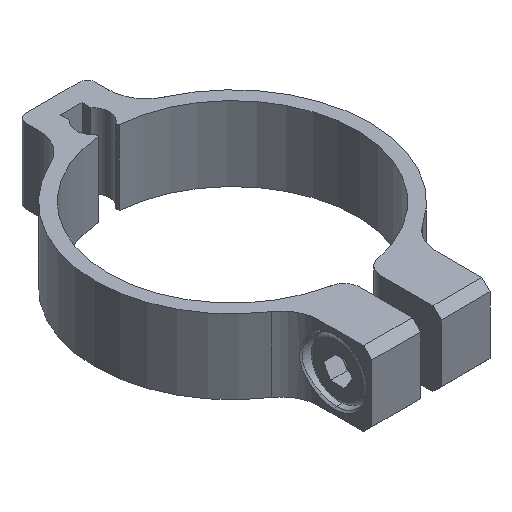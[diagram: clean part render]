
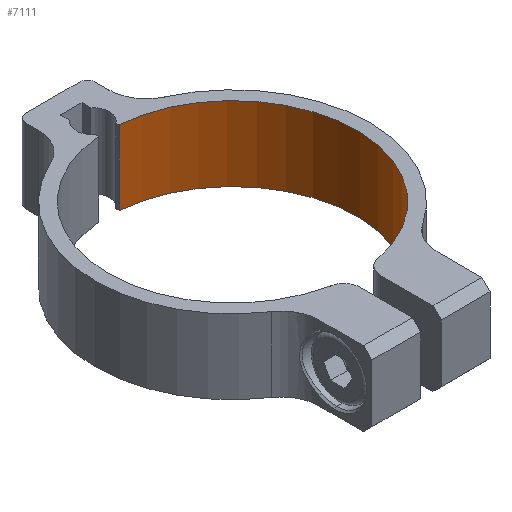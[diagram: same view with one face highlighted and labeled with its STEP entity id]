
A CAD part, isometric view. The second image highlights one B-rep face of the part: STEP entity #7111.
In plain terms, the highlighted cylindrical face has radius 15 mm (diameter 30 mm), a partial arc.
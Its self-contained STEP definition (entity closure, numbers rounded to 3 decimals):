
#703 = EDGE_CURVE ( 'NONE', #4776, #3224, #1637, .T. ) ;
#753 = CARTESIAN_POINT ( 'NONE',  ( 29.228, -89.207, -184.825 ) ) ;
#782 = DIRECTION ( 'NONE',  ( 0., 0., 1. ) ) ;
#1047 = EDGE_CURVE ( 'NONE', #2341, #3224, #5752, .T. ) ;
#1268 = VECTOR ( 'NONE', #782, 1000. ) ;
#1464 = CARTESIAN_POINT ( 'NONE',  ( 30.868, -118.88, -184.825 ) ) ;
#1490 = ORIENTED_EDGE ( 'NONE', *, *, #2277, .T. ) ;
#1552 = CARTESIAN_POINT ( 'NONE',  ( 29.228, -89.207, -175.825 ) ) ;
#1637 = CIRCLE ( 'NONE', #3791, 15. ) ;
#2214 = CARTESIAN_POINT ( 'NONE',  ( 28., -104.157, -175.825 ) ) ;
#2277 = EDGE_CURVE ( 'NONE', #6324, #2341, #6900, .T. ) ;
#2341 = VERTEX_POINT ( 'NONE', #1464 ) ;
#2588 = VECTOR ( 'NONE', #3393, 1000. ) ;
#2717 = CARTESIAN_POINT ( 'NONE',  ( 30.868, -118.88, -175.825 ) ) ;
#3020 = EDGE_LOOP ( 'NONE', ( #3502, #5923, #1490, #4656 ) ) ;
#3224 = VERTEX_POINT ( 'NONE', #4412 ) ;
#3393 = DIRECTION ( 'NONE',  ( 0., 0., -1. ) ) ;
#3502 = ORIENTED_EDGE ( 'NONE', *, *, #703, .F. ) ;
#3724 = AXIS2_PLACEMENT_3D ( 'NONE', #6336, #6395, #6424 ) ;
#3791 = AXIS2_PLACEMENT_3D ( 'NONE', #5633, #5665, #5595 ) ;
#4117 = LINE ( 'NONE', #5678, #2588 ) ;
#4412 = CARTESIAN_POINT ( 'NONE',  ( 30.868, -118.88, -175.825 ) ) ;
#4656 = ORIENTED_EDGE ( 'NONE', *, *, #1047, .T. ) ;
#4776 = VERTEX_POINT ( 'NONE', #1552 ) ;
#4784 = AXIS2_PLACEMENT_3D ( 'NONE', #2214, #7428, #5113 ) ;
#4869 = EDGE_CURVE ( 'NONE', #4776, #6324, #4117, .T. ) ;
#5113 = DIRECTION ( 'NONE',  ( -1., 0., 0. ) ) ;
#5595 = DIRECTION ( 'NONE',  ( 1., 0., 0. ) ) ;
#5633 = CARTESIAN_POINT ( 'NONE',  ( 28., -104.157, -175.825 ) ) ;
#5665 = DIRECTION ( 'NONE',  ( 0., 0., -1. ) ) ;
#5678 = CARTESIAN_POINT ( 'NONE',  ( 29.228, -89.207, -180.325 ) ) ;
#5752 = LINE ( 'NONE', #2717, #1268 ) ;
#5923 = ORIENTED_EDGE ( 'NONE', *, *, #4869, .T. ) ;
#6324 = VERTEX_POINT ( 'NONE', #753 ) ;
#6336 = CARTESIAN_POINT ( 'NONE',  ( 28., -104.157, -184.825 ) ) ;
#6395 = DIRECTION ( 'NONE',  ( 0., 0., -1. ) ) ;
#6424 = DIRECTION ( 'NONE',  ( 1., 0., 0. ) ) ;
#6442 = FACE_OUTER_BOUND ( 'NONE', #3020, .T. ) ;
#6900 = CIRCLE ( 'NONE', #3724, 15. ) ;
#7111 = ADVANCED_FACE ( 'NONE', ( #6442 ), #7311, .F. ) ;
#7311 = CYLINDRICAL_SURFACE ( 'NONE', #4784, 15. ) ;
#7428 = DIRECTION ( 'NONE',  ( 0., 0., -1. ) ) ;
